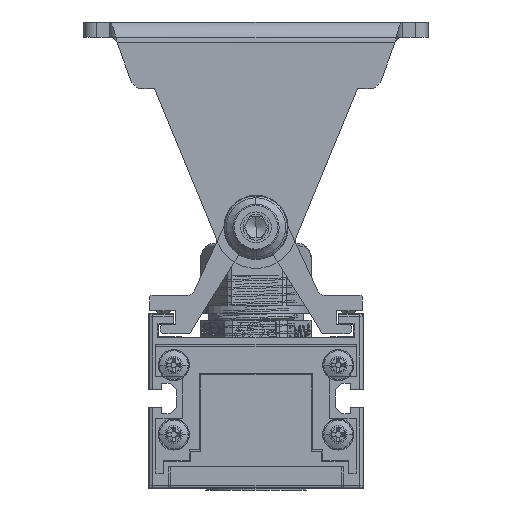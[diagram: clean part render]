
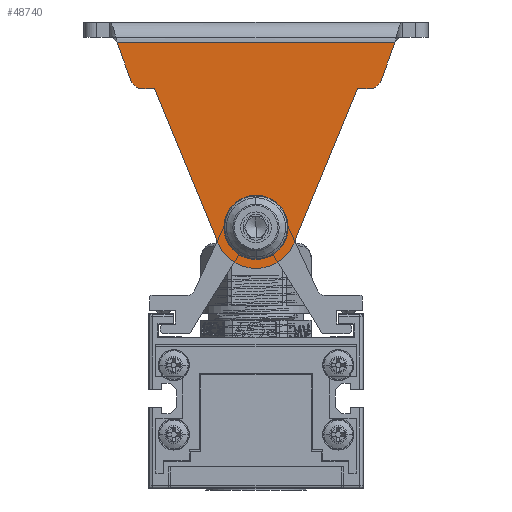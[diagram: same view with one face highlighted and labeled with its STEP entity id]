
A CAD part, front view. The second image highlights one B-rep face of the part: STEP entity #48740.
In plain terms, the highlighted planar face has unit normal (0, -1, 0) as drawn and (0, 0, -1) by its records, which use the part's own axes.
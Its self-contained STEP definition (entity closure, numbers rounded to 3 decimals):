
#47884=DIRECTION('',(-0.381,-0.924,0.));
#47885=VECTOR('',#47884,32.457);
#47886=CARTESIAN_POINT('',(-7.396,43.006,-18.));
#47887=LINE('',#47886,#47885);
#47888=DIRECTION('',(-1.,0.,0.));
#47889=VECTOR('',#47888,2.249);
#47890=CARTESIAN_POINT('',(-19.768,13.,-18.));
#47891=LINE('',#47890,#47889);
#47892=CARTESIAN_POINT('',(-22.018,10.5,-18.));
#47893=DIRECTION('',(0.,0.,1.));
#47894=DIRECTION('',(0.,1.,0.));
#47895=AXIS2_PLACEMENT_3D('',#47892,#47893,#47894);
#47897=DIRECTION('',(-0.342,-0.94,0.));
#47898=VECTOR('',#47897,7.827);
#47899=CARTESIAN_POINT('',(-24.367,11.355,-18.));
#47900=LINE('',#47899,#47898);
#47901=DIRECTION('',(-0.342,0.94,0.));
#47902=VECTOR('',#47901,7.827);
#47903=CARTESIAN_POINT('',(27.044,4.,-18.));
#47904=LINE('',#47903,#47902);
#47905=CARTESIAN_POINT('',(22.018,10.5,-18.));
#47906=DIRECTION('',(0.,0.,1.));
#47907=DIRECTION('',(0.94,0.342,0.));
#47908=AXIS2_PLACEMENT_3D('',#47905,#47906,#47907);
#47910=DIRECTION('',(-1.,0.,0.));
#47911=VECTOR('',#47910,2.249);
#47912=CARTESIAN_POINT('',(22.018,13.,-18.));
#47913=LINE('',#47912,#47911);
#47914=DIRECTION('',(-0.381,0.924,0.));
#47915=VECTOR('',#47914,32.457);
#47916=CARTESIAN_POINT('',(19.768,13.,-18.));
#47917=LINE('',#47916,#47915);
#47918=CARTESIAN_POINT('',(0.,39.957,-18.));
#47919=DIRECTION('',(0.,0.,1.));
#47920=DIRECTION('',(0.924,0.381,0.));
#47921=AXIS2_PLACEMENT_3D('',#47918,#47919,#47920);
#47923=CARTESIAN_POINT('',(0.,39.957,-18.));
#47924=DIRECTION('',(0.,0.,-1.));
#47925=DIRECTION('',(-1.,0.,0.));
#47926=AXIS2_PLACEMENT_3D('',#47923,#47924,#47925);
#47928=CARTESIAN_POINT('',(0.,39.957,-18.));
#47929=DIRECTION('',(0.,0.,-1.));
#47930=DIRECTION('',(1.,0.,0.));
#47931=AXIS2_PLACEMENT_3D('',#47928,#47929,#47930);
#47953=DIRECTION('',(-1.,0.,0.));
#47954=VECTOR('',#47953,54.088);
#47955=CARTESIAN_POINT('',(27.044,4.,-18.));
#47956=LINE('',#47955,#47954);
#48587=CARTESIAN_POINT('',(-7.396,43.006,-18.));
#48588=CARTESIAN_POINT('',(-19.768,13.,-18.));
#48589=VERTEX_POINT('',#48587);
#48590=VERTEX_POINT('',#48588);
#48591=CARTESIAN_POINT('',(-22.018,13.,-18.));
#48592=VERTEX_POINT('',#48591);
#48593=CARTESIAN_POINT('',(-24.367,11.355,-18.));
#48594=VERTEX_POINT('',#48593);
#48595=CARTESIAN_POINT('',(-27.044,4.,-18.));
#48596=VERTEX_POINT('',#48595);
#48597=CARTESIAN_POINT('',(27.044,4.,-18.));
#48598=VERTEX_POINT('',#48597);
#48599=CARTESIAN_POINT('',(24.367,11.355,-18.));
#48600=VERTEX_POINT('',#48599);
#48601=CARTESIAN_POINT('',(22.018,13.,-18.));
#48602=VERTEX_POINT('',#48601);
#48603=CARTESIAN_POINT('',(19.768,13.,-18.));
#48604=VERTEX_POINT('',#48603);
#48605=CARTESIAN_POINT('',(7.396,43.006,-18.));
#48606=VERTEX_POINT('',#48605);
#48607=CARTESIAN_POINT('',(-3.25,39.957,-18.));
#48608=CARTESIAN_POINT('',(3.25,39.957,-18.));
#48609=VERTEX_POINT('',#48607);
#48610=VERTEX_POINT('',#48608);
#48708=CARTESIAN_POINT('',(-33.5,0.,-18.));
#48709=DIRECTION('',(0.,0.,-1.));
#48710=DIRECTION('',(-1.,0.,0.));
#48711=AXIS2_PLACEMENT_3D('',#48708,#48709,#48710);
#48712=PLANE('',#48711);
#48713=ORIENTED_EDGE('',*,*,#48698,.T.);
#48715=ORIENTED_EDGE('',*,*,#48714,.T.);
#48717=ORIENTED_EDGE('',*,*,#48716,.T.);
#48719=ORIENTED_EDGE('',*,*,#48718,.T.);
#48721=ORIENTED_EDGE('',*,*,#48720,.F.);
#48723=ORIENTED_EDGE('',*,*,#48722,.T.);
#48725=ORIENTED_EDGE('',*,*,#48724,.T.);
#48727=ORIENTED_EDGE('',*,*,#48726,.T.);
#48729=ORIENTED_EDGE('',*,*,#48728,.T.);
#48731=ORIENTED_EDGE('',*,*,#48730,.T.);
#48732=EDGE_LOOP('',(#48713,#48715,#48717,#48719,#48721,#48723,#48725,#48727,
#48729,#48731));
#48733=FACE_OUTER_BOUND('',#48732,.F.);
#48735=ORIENTED_EDGE('',*,*,#48734,.T.);
#48737=ORIENTED_EDGE('',*,*,#48736,.T.);
#48738=EDGE_LOOP('',(#48735,#48737));
#48739=FACE_BOUND('',#48738,.F.);
#48740=ADVANCED_FACE('',(#48733,#48739),#48712,.T.);
#47896=CIRCLE('',#47895,2.5);
#47909=CIRCLE('',#47908,2.5);
#47922=CIRCLE('',#47921,8.);
#47927=CIRCLE('',#47926,3.25);
#47932=CIRCLE('',#47931,3.25);
#48698=EDGE_CURVE('',#48589,#48590,#47887,.T.);
#48714=EDGE_CURVE('',#48590,#48592,#47891,.T.);
#48716=EDGE_CURVE('',#48592,#48594,#47896,.T.);
#48718=EDGE_CURVE('',#48594,#48596,#47900,.T.);
#48720=EDGE_CURVE('',#48598,#48596,#47956,.T.);
#48722=EDGE_CURVE('',#48598,#48600,#47904,.T.);
#48724=EDGE_CURVE('',#48600,#48602,#47909,.T.);
#48726=EDGE_CURVE('',#48602,#48604,#47913,.T.);
#48728=EDGE_CURVE('',#48604,#48606,#47917,.T.);
#48730=EDGE_CURVE('',#48606,#48589,#47922,.T.);
#48734=EDGE_CURVE('',#48609,#48610,#47927,.T.);
#48736=EDGE_CURVE('',#48610,#48609,#47932,.T.);
